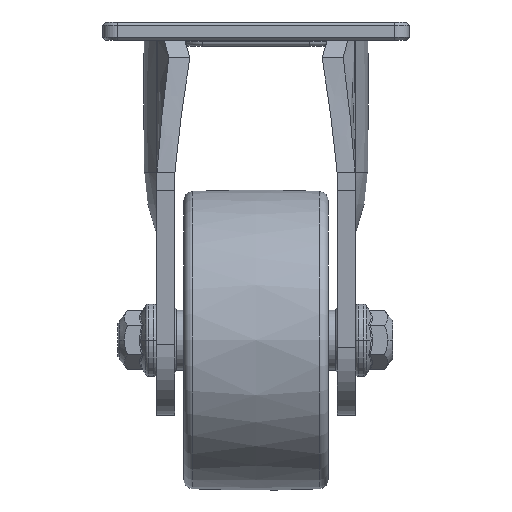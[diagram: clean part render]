
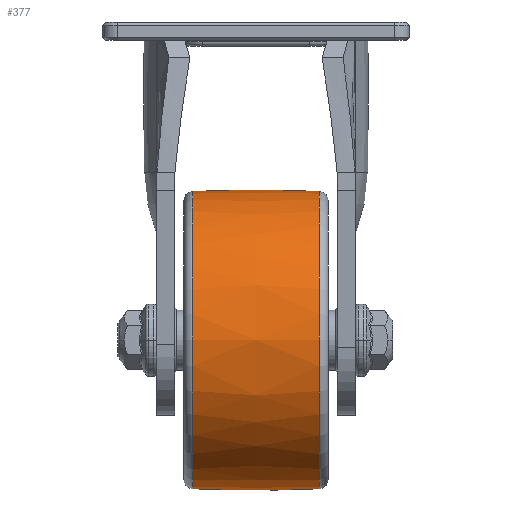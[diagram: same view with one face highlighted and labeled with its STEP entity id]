
A CAD part, left-side view. The second image highlights one B-rep face of the part: STEP entity #377.
In plain terms, the highlighted free-form (B-spline) face has degree [2, 2] with [3, 9] control points.
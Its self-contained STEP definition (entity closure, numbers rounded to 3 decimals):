
#304=CARTESIAN_POINT('',(-93.865,-154.911,-169.553));
#305=CARTESIAN_POINT('',(-93.865,-133.785,-170.447));
#306=CARTESIAN_POINT('',(-93.865,-112.658,-169.553));
#307=CARTESIAN_POINT('',(-44.312,-154.911,-169.553));
#308=CARTESIAN_POINT('',(-43.418,-133.785,-170.447));
#309=CARTESIAN_POINT('',(-44.312,-112.658,-169.553));
#310=CARTESIAN_POINT('',(-44.312,-154.911,-120.));
#311=CARTESIAN_POINT('',(-43.418,-133.785,-120.));
#312=CARTESIAN_POINT('',(-44.312,-112.658,-120.));
#313=CARTESIAN_POINT('',(-44.312,-154.911,-70.447));
#314=CARTESIAN_POINT('',(-43.418,-133.785,-69.553));
#315=CARTESIAN_POINT('',(-44.312,-112.658,-70.447));
#316=CARTESIAN_POINT('',(-93.865,-154.911,-70.447));
#317=CARTESIAN_POINT('',(-93.865,-133.785,-69.553));
#318=CARTESIAN_POINT('',(-93.865,-112.658,-70.447));
#319=CARTESIAN_POINT('',(-143.419,-154.911,-70.447));
#320=CARTESIAN_POINT('',(-144.312,-133.785,-69.553));
#321=CARTESIAN_POINT('',(-143.419,-112.658,-70.447));
#322=CARTESIAN_POINT('',(-143.419,-154.911,-120.));
#323=CARTESIAN_POINT('',(-144.312,-133.785,-120.));
#324=CARTESIAN_POINT('',(-143.419,-112.658,-120.));
#325=CARTESIAN_POINT('',(-143.419,-154.911,-169.553));
#326=CARTESIAN_POINT('',(-144.312,-133.785,-170.447));
#327=CARTESIAN_POINT('',(-143.419,-112.658,-169.553));
#328=CARTESIAN_POINT('',(-93.865,-154.911,-169.553));
#329=CARTESIAN_POINT('',(-93.865,-133.785,-170.447));
#330=CARTESIAN_POINT('',(-93.865,-112.658,-169.553));
#338=(BOUNDED_SURFACE()B_SPLINE_SURFACE(2,2,((#304,#307,#310,#313,#316,#319,#322,#325,#328),(#305,#308,#311,#314,#317,#320,#323,#326,#329),(#306,#309,#312,#315,#318,#321,#324,#327,#330)),.UNSPECIFIED.,.F.,.T.,.U.)B_SPLINE_SURFACE_WITH_KNOTS((3,3),(3,2,2,2,3),(-0.042,0.042),(0.0,1.571,3.142,4.712,6.283),.UNSPECIFIED.)GEOMETRIC_REPRESENTATION_ITEM()RATIONAL_B_SPLINE_SURFACE(((1.0,0.707,1.0,0.707,1.0,0.707,1.0,0.707,1.0),(0.999,0.706,0.999,0.706,0.999,0.706,0.999,0.706,0.999),(1.0,0.707,1.0,0.707,1.0,0.707,1.0,0.707,1.0)))REPRESENTATION_ITEM('')SURFACE());
#339=CARTESIAN_POINT('',(-93.865,-112.658,-70.447));
#340=VERTEX_POINT('',#339);
#341=CARTESIAN_POINT('',(-93.865,-154.911,-70.447));
#342=VERTEX_POINT('',#341);
#343=CARTESIAN_POINT('',(-93.865,-133.785,-570.));
#344=DIRECTION('',(1.0,0.0,0.0));
#345=DIRECTION('',(0.0,0.0,1.0));
#346=AXIS2_PLACEMENT_3D('',#343,#344,#345);
#347=CIRCLE('',#346,500.0);
#348=EDGE_CURVE('',#340,#342,#347,.T.);
#349=ORIENTED_EDGE('',*,*,#348,.F.);
#350=CARTESIAN_POINT('',(-93.865,-112.658,-169.553));
#351=VERTEX_POINT('',#350);
#352=CARTESIAN_POINT('',(-93.865,-112.658,-120.));
#353=DIRECTION('',(0.0,1.0,0.0));
#354=DIRECTION('',(0.0,0.0,1.0));
#355=AXIS2_PLACEMENT_3D('',#352,#353,#354);
#356=CIRCLE('',#355,49.553);
#357=EDGE_CURVE('',#351,#340,#356,.T.);
#358=ORIENTED_EDGE('',*,*,#357,.F.);
#359=CARTESIAN_POINT('',(-93.865,-154.911,-169.553));
#360=VERTEX_POINT('',#359);
#361=CARTESIAN_POINT('',(-93.865,-133.785,330.));
#362=DIRECTION('',(-1.0,0.0,0.0));
#363=DIRECTION('',(0.0,0.0,-1.0));
#364=AXIS2_PLACEMENT_3D('',#361,#362,#363);
#365=CIRCLE('',#364,500.0);
#366=EDGE_CURVE('',#351,#360,#365,.T.);
#367=ORIENTED_EDGE('',*,*,#366,.T.);
#368=CARTESIAN_POINT('',(-93.865,-154.911,-120.));
#369=DIRECTION('',(0.0,1.0,0.0));
#370=DIRECTION('',(0.0,0.0,1.0));
#371=AXIS2_PLACEMENT_3D('',#368,#369,#370);
#372=CIRCLE('',#371,49.553);
#373=EDGE_CURVE('',#360,#342,#372,.T.);
#374=ORIENTED_EDGE('',*,*,#373,.T.);
#375=EDGE_LOOP('',(#349,#358,#367,#374));
#376=FACE_OUTER_BOUND('',#375,.T.);
#377=ADVANCED_FACE('',(#376),#338,.T.);
